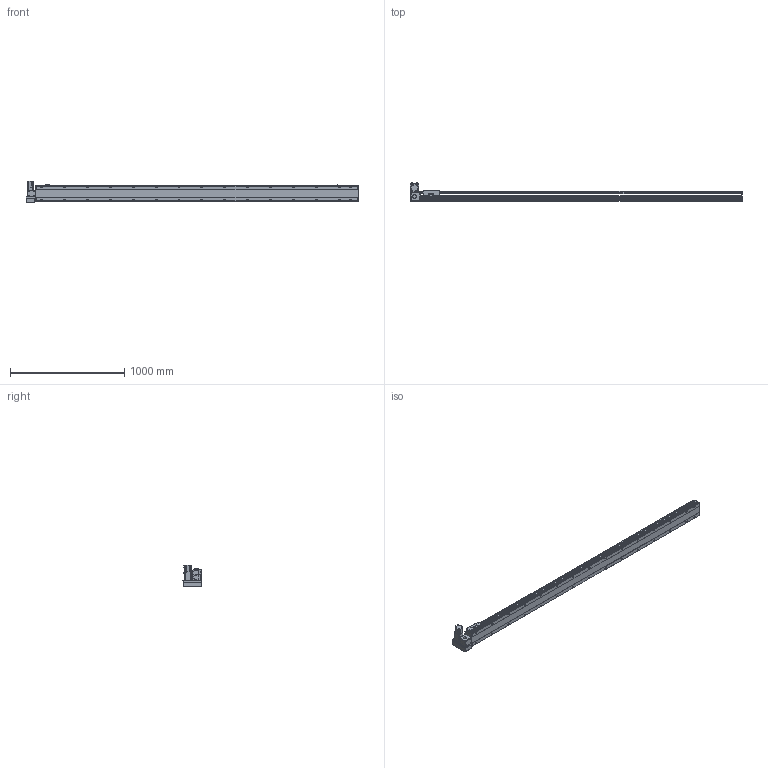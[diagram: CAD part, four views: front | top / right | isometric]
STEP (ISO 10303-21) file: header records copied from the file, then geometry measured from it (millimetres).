
FILE_DESCRIPTION(/* description */ ('STEP AP214'),/* implementation_level */ '2;1');
FILE_NAME(/* name */ 'PBS140S-P40-S2550-LU-T40-C1-N(0)',/* time_stamp */ '2022-06-09T02:36:37+02:00',/* author */ ('License CC BY-ND 4.0'),/* organization */ ('CADENAS'),/* preprocessor_version */ 'ST-DEVELOPER v18.102',/* originating_system */ 'PARTsolutions',/* authorisation */ ' ');
FILE_SCHEMA (('AUTOMOTIVE_DESIGN {1 0 10303 214 3 1 1}'));
Length unit declared in the file: millimetre
Products named in the file (7): PBS140S-P40-S2550-LU-T40-C1-N(0); PBS140S_sensor; PBS140S_plant; PBS140S_sliser; T40-p1; PBS140ST-LU_motors; PBS140S-S2550()_body
Assembly tree (8 placements, depth 2):
  PBS140S-P40-S2550-LU-T40-C1-N(0)
    PBS140S_sensor  x3
    PBS140S_plant
    PBS140S_sliser
    T40-p1
    PBS140ST-LU_motors
    PBS140S-S2550()_body
Bounding box: 2904 x 162.5 x 189.7 mm (x, y, z)
Volume: 14097067.1 mm3; surface area: 2374368.1 mm2
Topology: 8 solids, 8 shells, 1211 faces, 3191 edges, 2087 vertices
Faces by surface type: plane 744, cylinder 401, cone 56, sphere 8, torus 2
Full cylindrical faces by diameter (mm): 3.242 x4, 4 x2, 4.134 x4, 4.4 x8, 4.5 x2, 4.8 x4, 4.917 x38, 5.5 x7, 6 x2, 7 x32, 7.5 x8, 8 x12, 8.5 x4, 10.5 x30, 14 x1, 30 x2, 50 x2
Entity records: 34702 total; most frequent: CARTESIAN_POINT 6600, DIRECTION 5838, ORIENTED_EDGE 5482, EDGE_CURVE 2741, AXIS2_PLACEMENT_3D 2069, VERTEX_POINT 1921, LINE 1700, VECTOR 1700
